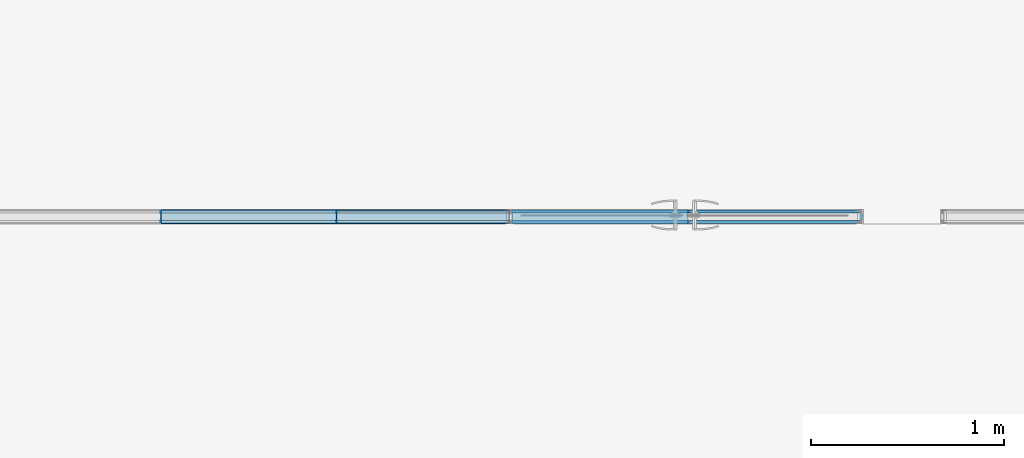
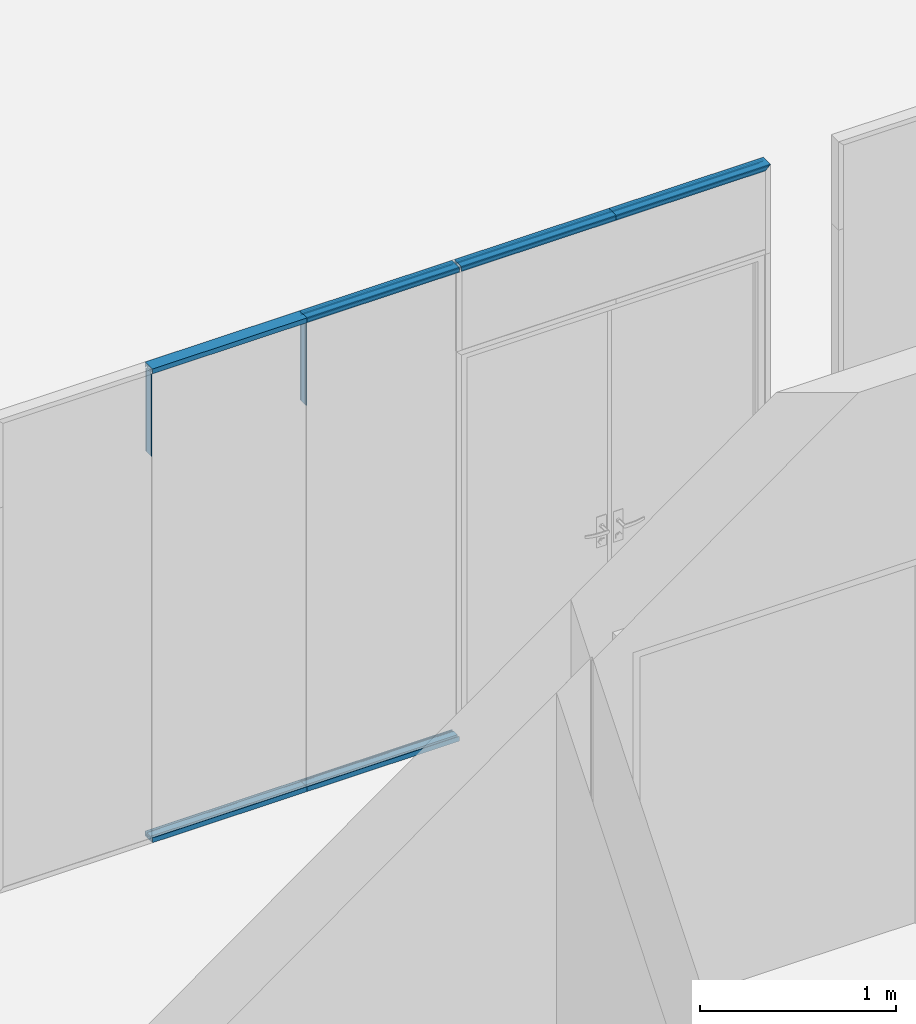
# One storey, part 26 of 62: 15 building element parts, 9 elements without a shape of their own.
"""IFC2X3 building model written with IfcOpenShell, lengths in millimetres."""

from ifc_helpers import new_model, entity, si_unit, converted_unit, derived_unit, money_unit, direction, frame, origin_with_axes, place, context, subcontext, project, spatial, faceted_brep, source, transform, mapped, material, type_object, element, aggregate, save


model = new_model("IFC2X3")

# Units and contexts
model_context = context("Model", 3, precision=0.01, world=origin_with_axes(), true_north=direction((0.0, 1.0)))
body_context = subcontext(model_context, "Body", "Model", "MODEL_VIEW")
ifc_project = project(units=[si_unit("LENGTHUNIT", "METRE", prefix="MILLI"), si_unit("AREAUNIT", "SQUARE_METRE"), si_unit("VOLUMEUNIT", "CUBIC_METRE"), converted_unit("PLANEANGLEUNIT", "DEGREE", entity("IfcPlaneAngleMeasure", 0.0174532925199), si_unit("PLANEANGLEUNIT", "RADIAN"), dimensions=[0, 0, 0, 0, 0, 0, 0]), si_unit("SOLIDANGLEUNIT", "STERADIAN"), money_unit("EUR"), converted_unit("TIMEUNIT", "Year", entity("IfcTimeMeasure", 31556926.0), si_unit("TIMEUNIT", "SECOND"), dimensions=[0, 0, 1, 0, 0, 0, 0]), si_unit("MASSUNIT", "GRAM", prefix="KILO"), si_unit("THERMODYNAMICTEMPERATUREUNIT", "DEGREE_CELSIUS"), si_unit("LUMINOUSINTENSITYUNIT", "LUMEN"), si_unit("ENERGYUNIT", "JOULE", prefix="MEGA"), derived_unit("THERMALCONDUCTANCEUNIT", [(si_unit("POWERUNIT", "WATT"), 1), (si_unit("LENGTHUNIT", "METRE"), -1), (si_unit("THERMODYNAMICTEMPERATUREUNIT", "KELVIN"), -1)]), derived_unit("SPECIFICHEATCAPACITYUNIT", [(si_unit("ENERGYUNIT", "JOULE"), 1), (si_unit("MASSUNIT", "GRAM", prefix="KILO"), -1), (si_unit("THERMODYNAMICTEMPERATUREUNIT", "KELVIN"), -1)]), derived_unit("MASSDENSITYUNIT", [(si_unit("MASSUNIT", "GRAM", prefix="KILO"), 1), (si_unit("VOLUMEUNIT", "CUBIC_METRE"), -1)])], contexts=[model_context])

# Site, building, storey
site_placement = place(None, origin_with_axes())
site = spatial("IfcSite", under=ifc_project, at=site_placement, Name="Puškini 31, Narva", CompositionType="ELEMENT")
building_placement = place(site_placement, origin_with_axes())
building = spatial("IfcBuilding", under=site, at=building_placement, Name="Narva Riigigümnaasium", CompositionType="ELEMENT")
storey_placement = place(building_placement, frame((0.0, 0.0, 660.0), z_axis=(0.0, 0.0, 1.0), x_axis=(1.0, 0.0, 0.0)))
storey = spatial("IfcBuildingStorey", under=building, at=storey_placement, Name="2.korrus +0.66", CompositionType="ELEMENT", Elevation=660.0)

# Curtain wall, members, building element parts
curtain_wall_type = type_object("IfcCurtainWallType", Name="Curtain Wall Type", PredefinedType="NOTDEFINED")
curtain_wall_placement = place(storey_placement, frame((41241.6, 223837.000007, -1.99739158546e-06), z_axis=(0.0, 0.0, 1.0), x_axis=(1.0, 0.0, 0.0)))
curtain_wall = element("IfcCurtainWall", 1, at=curtain_wall_placement, inside=storey, type_object=curtain_wall_type, Name="G-SKLF-53")
member_type_1 = type_object("IfcMemberType", Name="Boundary Frame 30 x 37", PredefinedType="MULLION")
member_1_placement = place(curtain_wall_placement, frame((-1820.8, 0.0, 2949.99999445), z_axis=(-1.0, 0.0, 0.0), x_axis=(0.0, 0.0, -1.0)))
member_1 = element("IfcMember", 2, at=member_1_placement, type_object=member_type_1, Name="G-SKLF-91-raam", ObjectType="MULLION")
ifc_material_1 = material(Name="Klaasvill")
shared_shape_1 = source(origin_with_axes(), body_context, "Body", "Brep", [
    faceted_brep([(-7.49999990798, 20.000000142, 0.0), (-7.49999990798, 20.000000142, 910.4), (-13.8499999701, 20.000000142, 910.4), (-13.8499999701, 20.000000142, 0.0), (-7.49999990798, 34.0161444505, 0.0), (-7.49999990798, 34.0161444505, 910.4), (-13.8499999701, 34.0161444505, 910.4), (-13.8499999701, 34.0161444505, 0.0)], [[[0, 1, 2, 3]], [[4, 5, 1, 0]], [[1, 5, 6, 2]], [[3, 2, 6, 7]], [[0, 3, 7, 4]], [[7, 6, 5, 4]]]),
    faceted_brep([(-24.987414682, 34.0161444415, 0.0), (-24.987414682, 34.0161444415, 910.4), (-25.004489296, 32.0307503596, 910.4), (-25.004489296, 32.0307503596, 0.0), (-28.5126239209, 34.0161444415, 0.0), (-28.5126239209, 34.0161444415, 910.4), (-28.7655837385, 33.0385325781, 910.4), (-28.4955493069, 32.0307503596, 910.4), (-27.75780152, 31.2930025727, 910.4), (-26.7500193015, 31.0229681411, 910.4), (-25.742237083, 31.2930025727, 910.4), (-25.742237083, 31.2930025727, 0.0), (-26.7500193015, 31.0229681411, 0.0), (-27.75780152, 31.2930025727, 0.0), (-28.4955493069, 32.0307503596, 0.0), (-28.7655837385, 33.0385325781, 0.0)], [[[0, 1, 2, 3]], [[4, 5, 1, 0]], [[1, 5, 6, 7, 8, 9, 10, 2]], [[3, 2, 10, 11]], [[0, 3, 11, 12, 13, 14, 15, 4]], [[15, 6, 5, 4]], [[14, 7, 6, 15]], [[13, 8, 7, 14]], [[12, 9, 8, 13]], [[11, 10, 9, 12]]]),
    faceted_brep([(-7.49999990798, -19.9999997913, 0.0), (-7.49999990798, -19.9999997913, 910.4), (-7.49999990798, -34.0161445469, 910.4), (-7.49999990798, -34.0161445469, 0.0), (-13.8499999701, -19.9999997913, 0.0), (-13.8499999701, -19.9999997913, 910.4), (-13.8499999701, -34.0161445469, 910.4), (-13.8499999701, -34.0161445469, 0.0)], [[[0, 1, 2, 3]], [[4, 5, 1, 0]], [[1, 5, 6, 2]], [[3, 2, 6, 7]], [[0, 3, 7, 4]], [[7, 6, 5, 4]]]),
    faceted_brep([(-25.004489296, -32.0307503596, 0.0), (-25.004489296, -32.0307503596, 910.4), (-24.987414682, -34.0161444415, 910.4), (-24.987414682, -34.0161444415, 0.0), (-25.742237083, -31.2930025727, 0.0), (-25.742237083, -31.2930025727, 910.4), (-26.7500193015, -31.0229681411, 910.4), (-27.75780152, -31.2930025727, 910.4), (-28.4955493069, -32.0307503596, 910.4), (-28.7655837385, -33.0385325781, 910.4), (-28.5126239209, -34.0161444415, 910.4), (-28.5126239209, -34.0161444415, 0.0), (-28.7655837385, -33.0385325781, 0.0), (-28.4955493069, -32.0307503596, 0.0), (-27.75780152, -31.2930025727, 0.0), (-26.7500193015, -31.0229681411, 0.0)], [[[0, 1, 2, 3]], [[4, 5, 1, 0]], [[1, 5, 6, 7, 8, 9, 10, 2]], [[3, 2, 10, 11]], [[0, 3, 11, 12, 13, 14, 15, 4]], [[15, 6, 5, 4]], [[14, 7, 6, 15]], [[13, 8, 7, 14]], [[12, 9, 8, 13]], [[11, 10, 9, 12]]]),
])
building_element_part_1_placement = place(member_1_placement, origin_with_axes())
building_element_part_1 = element("IfcBuildingElementPart", 3, at=building_element_part_1_placement, material=ifc_material_1, Name="Klaasvill", context=body_context, shape_type="MappedRepresentation", body=[
    mapped(shared_shape_1, transform((0.0, 0.0, 0.0), x_axis=(-1.0, 0.0, 0.0), y_axis=(0.0, -1.0, 0.0), z_axis=(0.0, 0.0, 1.0))),
])
member_2_placement = place(curtain_wall_placement, frame((0.0, 0.0, 2949.99999445), z_axis=(-1.0, 0.0, 0.0), x_axis=(0.0, 0.0, -1.0)))
member_2 = element("IfcMember", 4, at=member_2_placement, type_object=member_type_1, Name="G-SKLF-89-raam", ObjectType="MULLION")
building_element_part_2_placement = place(member_2_placement, origin_with_axes())
building_element_part_2 = element("IfcBuildingElementPart", 5, at=building_element_part_2_placement, material=ifc_material_1, Name="Klaasvill", context=body_context, shape_type="MappedRepresentation", body=[
    mapped(shared_shape_1, transform((0.0, 0.0, 0.0), x_axis=(-1.0, 0.0, 0.0), y_axis=(0.0, -1.0, 0.0), z_axis=(0.0, 0.0, 1.0))),
])
member_3_placement = place(curtain_wall_placement, frame((-2731.2, 0.0, 0.0), z_axis=(1.0, 0.0, 0.0), x_axis=(0.0, 0.0, 1.0)))
member_3 = element("IfcMember", 6, at=member_3_placement, type_object=member_type_1, Name="G-SKLF-82-raam", ObjectType="MULLION")
ifc_material_2 = material(Name="Teras RAL7012")
shared_shape_2 = source(origin_with_axes(), body_context, "Body", "Brep", [
    faceted_brep([(0.0, -17.0000000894, 0.0), (0.0, -17.0000000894, 910.4), (-29.5999996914, -17.0000000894, 910.4), (-29.5999996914, -17.0000000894, 0.0), (0.0, 17.0000000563, 0.0), (0.0, 17.0000000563, 910.4), (-29.5999996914, 17.0000000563, 910.4), (-1.9999999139, 15.0000001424, 910.4), (-1.9999999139, -15.0000001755, 910.4), (-18.7999996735, -15.0000001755, 910.4), (-18.7999996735, 15.0000001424, 910.4), (-29.5999996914, 17.0000000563, 0.0), (-1.9999999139, 15.0000001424, 0.0), (-18.7999996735, 15.0000001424, 0.0), (-18.7999996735, -15.0000001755, 0.0), (-1.9999999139, -15.0000001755, 0.0)], [[[0, 1, 2, 3]], [[4, 5, 1, 0]], [[1, 5, 6, 2], [7, 8, 9, 10]], [[3, 2, 6, 11]], [[0, 3, 11, 4], [12, 13, 14, 15]], [[11, 6, 5, 4]], [[15, 8, 7, 12]], [[14, 9, 8, 15]], [[13, 10, 9, 14]], [[12, 7, 10, 13]]]),
    faceted_brep([(0.0, 17.0, 0.0), (0.0, 17.0, 910.4), (-29.5999996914, 17.0000000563, 910.4), (-29.5999996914, 17.0000000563, 0.0), (0.0, 37.0, 0.0), (0.0, 37.0, 910.4), (-30.0000193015, 37.0, 910.4), (-30.0000193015, 34.0161444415, 910.4), (-28.5126239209, 34.0161444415, 910.4), (-24.987414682, 34.0161444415, 910.4), (-13.8499999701, 34.0161444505, 910.4), (-7.49999999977, 34.0161444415, 910.4), (-7.49999999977, 20.0, 910.4), (-13.8499999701, 20.000000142, 910.4), (-30.0000193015, 20.0, 910.4), (-30.0000193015, 17.0, 910.4), (-30.0000193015, 17.0, 0.0), (-30.0000193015, 20.0, 0.0), (-13.8499999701, 20.000000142, 0.0), (-7.49999999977, 20.0, 0.0), (-7.49999999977, 34.0161444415, 0.0), (-13.8499999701, 34.0161444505, 0.0), (-24.987414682, 34.0161444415, 0.0), (-28.5126239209, 34.0161444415, 0.0), (-30.0000193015, 34.0161444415, 0.0), (-30.0000193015, 37.0, 0.0)], [[[0, 1, 2, 3]], [[4, 5, 1, 0]], [[1, 5, 6, 7, 8, 9, 10, 11, 12, 13, 14, 15, 2]], [[3, 2, 15, 16]], [[0, 3, 16, 17, 18, 19, 20, 21, 22, 23, 24, 25, 4]], [[25, 6, 5, 4]], [[24, 7, 6, 25]], [[23, 8, 7, 24]], [[22, 9, 8, 23]], [[21, 10, 9, 22]], [[20, 11, 10, 21]], [[19, 12, 11, 20]], [[18, 13, 12, 19]], [[17, 14, 13, 18]], [[16, 15, 14, 17]]]),
    faceted_brep([(0.0, -17.0, 0.0), (0.0, -17.0, 910.4), (0.0, -37.0, 910.4), (0.0, -37.0, 0.0), (-29.5999996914, -17.0000000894, 0.0), (-29.5999996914, -17.0000000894, 910.4), (-30.0000193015, -17.0, 910.4), (-30.0000193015, -20.0, 910.4), (-13.8499999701, -19.9999997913, 910.4), (-7.49999999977, -20.0, 910.4), (-7.49999999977, -34.0161444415, 910.4), (-13.8499999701, -34.0161445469, 910.4), (-24.987414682, -34.0161444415, 910.4), (-28.5126239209, -34.0161444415, 910.4), (-30.0000193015, -34.0161444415, 910.4), (-30.0000193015, -37.0, 910.4), (-30.0000193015, -37.0, 0.0), (-30.0000193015, -34.0161444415, 0.0), (-28.5126239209, -34.0161444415, 0.0), (-24.987414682, -34.0161444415, 0.0), (-13.8499999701, -34.0161445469, 0.0), (-7.49999999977, -34.0161444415, 0.0), (-7.49999999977, -20.0, 0.0), (-13.8499999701, -19.9999997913, 0.0), (-30.0000193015, -20.0, 0.0), (-30.0000193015, -17.0, 0.0)], [[[0, 1, 2, 3]], [[4, 5, 1, 0]], [[1, 5, 6, 7, 8, 9, 10, 11, 12, 13, 14, 15, 2]], [[3, 2, 15, 16]], [[0, 3, 16, 17, 18, 19, 20, 21, 22, 23, 24, 25, 4]], [[25, 6, 5, 4]], [[24, 7, 6, 25]], [[23, 8, 7, 24]], [[22, 9, 8, 23]], [[21, 10, 9, 22]], [[20, 11, 10, 21]], [[19, 12, 11, 20]], [[18, 13, 12, 19]], [[17, 14, 13, 18]], [[16, 15, 14, 17]]]),
])
building_element_part_3_placement = place(member_3_placement, origin_with_axes())
building_element_part_3 = element("IfcBuildingElementPart", 7, at=building_element_part_3_placement, material=ifc_material_2, Name="Teras RAL7012", context=body_context, shape_type="MappedRepresentation", body=[
    mapped(shared_shape_2, transform((0.0, 0.0, 0.0), x_axis=(-1.0, 0.0, 0.0), y_axis=(0.0, -1.0, 0.0), z_axis=(0.0, 0.0, 1.0))),
])
aggregate(member_3, [building_element_part_3])
building_element_part_4_placement = place(member_1_placement, origin_with_axes())
building_element_part_4 = element("IfcBuildingElementPart", 8, at=building_element_part_4_placement, material=ifc_material_2, Name="Teras RAL7012", context=body_context, shape_type="MappedRepresentation", body=[
    mapped(shared_shape_2, transform((0.0, 0.0, 0.0), x_axis=(-1.0, 0.0, 0.0), y_axis=(0.0, -1.0, 0.0), z_axis=(0.0, 0.0, 1.0))),
])
aggregate(member_1, [building_element_part_1, building_element_part_4])
building_element_part_5_placement = place(member_2_placement, origin_with_axes())
building_element_part_5 = element("IfcBuildingElementPart", 9, at=building_element_part_5_placement, material=ifc_material_2, Name="Teras RAL7012", context=body_context, shape_type="MappedRepresentation", body=[
    mapped(shared_shape_2, transform((0.0, 0.0, 0.0), x_axis=(-1.0, 0.0, 0.0), y_axis=(0.0, -1.0, 0.0), z_axis=(0.0, 0.0, 1.0))),
])
aggregate(member_2, [building_element_part_2, building_element_part_5])
member_4_placement = place(curtain_wall_placement, frame((910.4, 0.0, 2949.99999445), z_axis=(-1.0, 0.0, 0.0), x_axis=(0.0, 0.0, -1.0)))
member_4 = element("IfcMember", 10, at=member_4_placement, type_object=member_type_1, Name="G-SKLF-88-raam", ObjectType="MULLION")
shared_shape_3 = source(origin_with_axes(), body_context, "Body", "Brep", [
    faceted_brep([(-13.8499999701, 20.000000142, 13.8499999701), (-7.49999990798, 20.000000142, 7.49999990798), (-7.49999990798, 20.000000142, 910.4), (-13.8499999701, 20.000000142, 910.4), (-13.8499999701, 34.0161444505, 13.8499999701), (-7.49999990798, 34.0161444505, 7.49999990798), (-7.49999990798, 34.0161444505, 910.4), (-13.8499999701, 34.0161444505, 910.4)], [[[0, 1, 2, 3]], [[1, 0, 4, 5]], [[1, 5, 6, 2]], [[2, 6, 7, 3]], [[4, 0, 3, 7]], [[5, 4, 7, 6]]]),
    faceted_brep([(-25.004489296, 32.0307503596, 25.004489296), (-24.987414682, 34.0161444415, 24.987414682), (-24.987414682, 34.0161444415, 910.4), (-25.004489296, 32.0307503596, 910.4), (-25.742237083, 31.2930025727, 25.742237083), (-26.7500193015, 31.0229681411, 26.7500193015), (-27.75780152, 31.2930025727, 27.75780152), (-28.4955493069, 32.0307503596, 28.4955493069), (-28.7655837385, 33.0385325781, 28.7655837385), (-28.5126239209, 34.0161444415, 28.5126239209), (-28.5126239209, 34.0161444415, 910.4), (-28.7655837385, 33.0385325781, 910.4), (-28.4955493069, 32.0307503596, 910.4), (-27.75780152, 31.2930025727, 910.4), (-26.7500193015, 31.0229681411, 910.4), (-25.742237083, 31.2930025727, 910.4)], [[[0, 1, 2, 3]], [[1, 0, 4, 5, 6, 7, 8, 9]], [[1, 9, 10, 2]], [[2, 10, 11, 12, 13, 14, 15, 3]], [[4, 0, 3, 15]], [[5, 4, 15, 14]], [[6, 5, 14, 13]], [[7, 6, 13, 12]], [[8, 7, 12, 11]], [[9, 8, 11, 10]]]),
    faceted_brep([(-7.49999990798, -34.0161445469, 7.49999990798), (-7.49999990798, -19.9999997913, 7.49999990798), (-7.49999990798, -19.9999997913, 910.4), (-7.49999990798, -34.0161445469, 910.4), (-13.8499999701, -34.0161445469, 13.8499999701), (-13.8499999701, -19.9999997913, 13.8499999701), (-13.8499999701, -19.9999997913, 910.4), (-13.8499999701, -34.0161445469, 910.4)], [[[0, 1, 2, 3]], [[1, 0, 4, 5]], [[1, 5, 6, 2]], [[2, 6, 7, 3]], [[4, 0, 3, 7]], [[5, 4, 7, 6]]]),
    faceted_brep([(-24.987414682, -34.0161444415, 24.987414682), (-25.004489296, -32.0307503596, 25.004489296), (-25.004489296, -32.0307503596, 910.4), (-24.987414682, -34.0161444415, 910.4), (-28.5126239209, -34.0161444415, 28.5126239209), (-28.7655837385, -33.0385325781, 28.7655837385), (-28.4955493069, -32.0307503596, 28.4955493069), (-27.75780152, -31.2930025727, 27.75780152), (-26.7500193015, -31.0229681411, 26.7500193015), (-25.742237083, -31.2930025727, 25.742237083), (-25.742237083, -31.2930025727, 910.4), (-26.7500193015, -31.0229681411, 910.4), (-27.75780152, -31.2930025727, 910.4), (-28.4955493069, -32.0307503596, 910.4), (-28.7655837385, -33.0385325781, 910.4), (-28.5126239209, -34.0161444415, 910.4)], [[[0, 1, 2, 3]], [[1, 0, 4, 5, 6, 7, 8, 9]], [[1, 9, 10, 2]], [[2, 10, 11, 12, 13, 14, 15, 3]], [[4, 0, 3, 15]], [[5, 4, 15, 14]], [[6, 5, 14, 13]], [[7, 6, 13, 12]], [[8, 7, 12, 11]], [[9, 8, 11, 10]]]),
])
building_element_part_6_placement = place(member_4_placement, origin_with_axes())
building_element_part_6 = element("IfcBuildingElementPart", 11, at=building_element_part_6_placement, material=ifc_material_1, Name="Klaasvill", context=body_context, shape_type="MappedRepresentation", body=[
    mapped(shared_shape_3, transform((0.0, 0.0, 0.0), x_axis=(-1.0, 0.0, 0.0), y_axis=(0.0, -1.0, 0.0), z_axis=(0.0, 0.0, 1.0))),
])
shared_shape_4 = source(origin_with_axes(), body_context, "Body", "Brep", [
    faceted_brep([(-29.5999996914, -17.0000000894, 29.5999996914), (0.0, -17.0000000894, 0.0), (0.0, -17.0000000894, 910.4), (-29.5999996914, -17.0000000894, 910.4), (-29.5999996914, 17.0000000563, 29.5999996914), (0.0, 17.0000000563, 0.0), (-1.9999999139, 15.0000001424, 1.9999999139), (-18.7999996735, 15.0000001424, 18.7999996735), (-18.7999996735, -15.0000001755, 18.7999996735), (-1.9999999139, -15.0000001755, 1.9999999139), (0.0, 17.0000000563, 910.4), (-29.5999996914, 17.0000000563, 910.4), (-1.9999999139, 15.0000001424, 910.4), (-1.9999999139, -15.0000001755, 910.4), (-18.7999996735, -15.0000001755, 910.4), (-18.7999996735, 15.0000001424, 910.4)], [[[0, 1, 2, 3]], [[1, 0, 4, 5], [6, 7, 8, 9]], [[1, 5, 10, 2]], [[2, 10, 11, 3], [12, 13, 14, 15]], [[4, 0, 3, 11]], [[5, 4, 11, 10]], [[7, 6, 12, 15]], [[8, 7, 15, 14]], [[9, 8, 14, 13]], [[6, 9, 13, 12]]]),
    faceted_brep([(-29.5999996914, 17.0000000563, 29.5999996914), (0.0, 17.0, 0.0), (0.0, 17.0, 910.4), (-29.5999996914, 17.0000000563, 910.4), (-30.0000193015, 17.0, 30.0000193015), (-30.0000193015, 20.0, 30.0000193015), (-13.8499999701, 20.000000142, 13.8499999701), (-7.49999999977, 20.0, 7.49999999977), (-7.49999999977, 34.0161444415, 7.49999999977), (-13.8499999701, 34.0161444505, 13.8499999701), (-24.987414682, 34.0161444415, 24.987414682), (-28.5126239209, 34.0161444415, 28.5126239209), (-30.0000193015, 34.0161444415, 30.0000193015), (-30.0000193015, 37.0, 30.0000193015), (0.0, 37.0, 0.0), (0.0, 37.0, 910.4), (-30.0000193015, 37.0, 910.4), (-30.0000193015, 34.0161444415, 910.4), (-28.5126239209, 34.0161444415, 910.4), (-24.987414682, 34.0161444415, 910.4), (-13.8499999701, 34.0161444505, 910.4), (-7.49999999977, 34.0161444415, 910.4), (-7.49999999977, 20.0, 910.4), (-13.8499999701, 20.000000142, 910.4), (-30.0000193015, 20.0, 910.4), (-30.0000193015, 17.0, 910.4)], [[[0, 1, 2, 3]], [[1, 0, 4, 5, 6, 7, 8, 9, 10, 11, 12, 13, 14]], [[1, 14, 15, 2]], [[2, 15, 16, 17, 18, 19, 20, 21, 22, 23, 24, 25, 3]], [[4, 0, 3, 25]], [[5, 4, 25, 24]], [[6, 5, 24, 23]], [[7, 6, 23, 22]], [[8, 7, 22, 21]], [[9, 8, 21, 20]], [[10, 9, 20, 19]], [[11, 10, 19, 18]], [[12, 11, 18, 17]], [[13, 12, 17, 16]], [[14, 13, 16, 15]]]),
    faceted_brep([(0.0, -37.0, 0.0), (0.0, -17.0, 0.0), (0.0, -17.0, 910.4), (0.0, -37.0, 910.4), (-30.0000193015, -37.0, 30.0000193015), (-30.0000193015, -34.0161444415, 30.0000193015), (-28.5126239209, -34.0161444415, 28.5126239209), (-24.987414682, -34.0161444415, 24.987414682), (-13.8499999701, -34.0161445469, 13.8499999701), (-7.49999999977, -34.0161444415, 7.49999999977), (-7.49999999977, -20.0, 7.49999999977), (-13.8499999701, -19.9999997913, 13.8499999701), (-30.0000193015, -20.0, 30.0000193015), (-30.0000193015, -17.0, 30.0000193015), (-29.5999996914, -17.0000000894, 29.5999996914), (-29.5999996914, -17.0000000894, 910.4), (-30.0000193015, -17.0, 910.4), (-30.0000193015, -20.0, 910.4), (-13.8499999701, -19.9999997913, 910.4), (-7.49999999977, -20.0, 910.4), (-7.49999999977, -34.0161444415, 910.4), (-13.8499999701, -34.0161445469, 910.4), (-24.987414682, -34.0161444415, 910.4), (-28.5126239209, -34.0161444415, 910.4), (-30.0000193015, -34.0161444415, 910.4), (-30.0000193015, -37.0, 910.4)], [[[0, 1, 2, 3]], [[1, 0, 4, 5, 6, 7, 8, 9, 10, 11, 12, 13, 14]], [[1, 14, 15, 2]], [[2, 15, 16, 17, 18, 19, 20, 21, 22, 23, 24, 25, 3]], [[4, 0, 3, 25]], [[5, 4, 25, 24]], [[6, 5, 24, 23]], [[7, 6, 23, 22]], [[8, 7, 22, 21]], [[9, 8, 21, 20]], [[10, 9, 20, 19]], [[11, 10, 19, 18]], [[12, 11, 18, 17]], [[13, 12, 17, 16]], [[14, 13, 16, 15]]]),
])
building_element_part_7_placement = place(member_4_placement, origin_with_axes())
building_element_part_7 = element("IfcBuildingElementPart", 12, at=building_element_part_7_placement, material=ifc_material_2, Name="Teras RAL7012", context=body_context, shape_type="MappedRepresentation", body=[
    mapped(shared_shape_4, transform((0.0, 0.0, 0.0), x_axis=(-1.0, 0.0, 0.0), y_axis=(0.0, -1.0, 0.0), z_axis=(0.0, 0.0, 1.0))),
])
aggregate(member_4, [building_element_part_6, building_element_part_7])
member_5_placement = place(curtain_wall_placement, frame((-1820.8, 0.0, 0.0), z_axis=(1.0, 0.0, 0.0), x_axis=(0.0, 0.0, 1.0)))
member_5 = element("IfcMember", 13, at=member_5_placement, type_object=member_type_1, Name="G-SKLF-96-raam", ObjectType="MULLION")
shared_shape_5 = source(origin_with_axes(), body_context, "Body", "Brep", [
    faceted_brep([(-7.49999990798, 20.000000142, 0.0), (-7.49999990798, 20.000000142, 897.399994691), (-13.8499999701, 20.000000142, 897.399994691), (-13.8499999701, 20.000000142, 0.0), (-7.49999990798, 34.0161444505, 0.0), (-7.49999990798, 34.0161444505, 897.399994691), (-13.8499999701, 34.0161444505, 897.399994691), (-13.8499999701, 34.0161444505, 0.0)], [[[0, 1, 2, 3]], [[4, 5, 1, 0]], [[1, 5, 6, 2]], [[3, 2, 6, 7]], [[0, 3, 7, 4]], [[7, 6, 5, 4]]]),
    faceted_brep([(-24.987414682, 34.0161444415, 0.0), (-24.987414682, 34.0161444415, 897.399994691), (-25.004489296, 32.0307503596, 897.399994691), (-25.004489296, 32.0307503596, 0.0), (-28.5126239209, 34.0161444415, 0.0), (-28.5126239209, 34.0161444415, 897.399994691), (-28.7655837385, 33.0385325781, 897.399994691), (-28.4955493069, 32.0307503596, 897.399994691), (-27.75780152, 31.2930025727, 897.399994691), (-26.7500193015, 31.0229681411, 897.399994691), (-25.742237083, 31.2930025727, 897.399994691), (-25.742237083, 31.2930025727, 0.0), (-26.7500193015, 31.0229681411, 0.0), (-27.75780152, 31.2930025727, 0.0), (-28.4955493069, 32.0307503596, 0.0), (-28.7655837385, 33.0385325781, 0.0)], [[[0, 1, 2, 3]], [[4, 5, 1, 0]], [[1, 5, 6, 7, 8, 9, 10, 2]], [[3, 2, 10, 11]], [[0, 3, 11, 12, 13, 14, 15, 4]], [[15, 6, 5, 4]], [[14, 7, 6, 15]], [[13, 8, 7, 14]], [[12, 9, 8, 13]], [[11, 10, 9, 12]]]),
    faceted_brep([(-7.49999990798, -19.9999997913, 0.0), (-7.49999990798, -19.9999997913, 897.399994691), (-7.49999990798, -34.0161445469, 897.399994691), (-7.49999990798, -34.0161445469, 0.0), (-13.8499999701, -19.9999997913, 0.0), (-13.8499999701, -19.9999997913, 897.399994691), (-13.8499999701, -34.0161445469, 897.399994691), (-13.8499999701, -34.0161445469, 0.0)], [[[0, 1, 2, 3]], [[4, 5, 1, 0]], [[1, 5, 6, 2]], [[3, 2, 6, 7]], [[0, 3, 7, 4]], [[7, 6, 5, 4]]]),
    faceted_brep([(-25.004489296, -32.0307503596, 0.0), (-25.004489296, -32.0307503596, 897.399994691), (-24.987414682, -34.0161444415, 897.399994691), (-24.987414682, -34.0161444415, 0.0), (-25.742237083, -31.2930025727, 0.0), (-25.742237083, -31.2930025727, 897.399994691), (-26.7500193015, -31.0229681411, 897.399994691), (-27.75780152, -31.2930025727, 897.399994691), (-28.4955493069, -32.0307503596, 897.399994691), (-28.7655837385, -33.0385325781, 897.399994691), (-28.5126239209, -34.0161444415, 897.399994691), (-28.5126239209, -34.0161444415, 0.0), (-28.7655837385, -33.0385325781, 0.0), (-28.4955493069, -32.0307503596, 0.0), (-27.75780152, -31.2930025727, 0.0), (-26.7500193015, -31.0229681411, 0.0)], [[[0, 1, 2, 3]], [[4, 5, 1, 0]], [[1, 5, 6, 7, 8, 9, 10, 2]], [[3, 2, 10, 11]], [[0, 3, 11, 12, 13, 14, 15, 4]], [[15, 6, 5, 4]], [[14, 7, 6, 15]], [[13, 8, 7, 14]], [[12, 9, 8, 13]], [[11, 10, 9, 12]]]),
])
building_element_part_8_placement = place(member_5_placement, origin_with_axes())
building_element_part_8 = element("IfcBuildingElementPart", 14, at=building_element_part_8_placement, material=ifc_material_1, Name="Klaasvill", context=body_context, shape_type="MappedRepresentation", body=[
    mapped(shared_shape_5, transform((0.0, 0.0, 0.0), x_axis=(-1.0, 0.0, 0.0), y_axis=(0.0, -1.0, 0.0), z_axis=(0.0, 0.0, 1.0))),
])
member_6_placement = place(curtain_wall_placement, frame((-923.400005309, 0.0, 2949.99999445), z_axis=(-1.0, 0.0, 0.0), x_axis=(0.0, 0.0, -1.0)))
member_6 = element("IfcMember", 15, at=member_6_placement, type_object=member_type_1, Name="G-SKLF-90-raam", ObjectType="MULLION")
building_element_part_9_placement = place(member_6_placement, origin_with_axes())
building_element_part_9 = element("IfcBuildingElementPart", 16, at=building_element_part_9_placement, material=ifc_material_1, Name="Klaasvill", context=body_context, shape_type="MappedRepresentation", body=[
    mapped(shared_shape_5, transform((0.0, 0.0, 0.0), x_axis=(-1.0, 0.0, 0.0), y_axis=(0.0, -1.0, 0.0), z_axis=(0.0, 0.0, 1.0))),
])
shared_shape_6 = source(origin_with_axes(), body_context, "Body", "Brep", [
    faceted_brep([(0.0, -17.0000000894, 0.0), (0.0, -17.0000000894, 897.399994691), (-29.5999996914, -17.0000000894, 897.399994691), (-29.5999996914, -17.0000000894, 0.0), (0.0, 17.0000000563, 0.0), (0.0, 17.0000000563, 897.399994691), (-29.5999996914, 17.0000000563, 897.399994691), (-1.9999999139, 15.0000001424, 897.399994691), (-1.9999999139, -15.0000001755, 897.399994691), (-18.7999996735, -15.0000001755, 897.399994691), (-18.7999996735, 15.0000001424, 897.399994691), (-29.5999996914, 17.0000000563, 0.0), (-1.9999999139, 15.0000001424, 0.0), (-18.7999996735, 15.0000001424, 0.0), (-18.7999996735, -15.0000001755, 0.0), (-1.9999999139, -15.0000001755, 0.0)], [[[0, 1, 2, 3]], [[4, 5, 1, 0]], [[1, 5, 6, 2], [7, 8, 9, 10]], [[3, 2, 6, 11]], [[0, 3, 11, 4], [12, 13, 14, 15]], [[11, 6, 5, 4]], [[15, 8, 7, 12]], [[14, 9, 8, 15]], [[13, 10, 9, 14]], [[12, 7, 10, 13]]]),
    faceted_brep([(0.0, 17.0, 0.0), (0.0, 17.0, 897.399994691), (-29.5999996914, 17.0000000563, 897.399994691), (-29.5999996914, 17.0000000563, 0.0), (0.0, 37.0, 0.0), (0.0, 37.0, 897.399994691), (-30.0000193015, 37.0, 897.399994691), (-30.0000193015, 34.0161444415, 897.399994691), (-28.5126239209, 34.0161444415, 897.399994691), (-24.987414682, 34.0161444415, 897.399994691), (-13.8499999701, 34.0161444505, 897.399994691), (-7.49999999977, 34.0161444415, 897.399994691), (-7.49999999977, 20.0, 897.399994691), (-13.8499999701, 20.000000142, 897.399994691), (-30.0000193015, 20.0, 897.399994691), (-30.0000193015, 17.0, 897.399994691), (-30.0000193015, 17.0, 0.0), (-30.0000193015, 20.0, 0.0), (-13.8499999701, 20.000000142, 0.0), (-7.49999999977, 20.0, 0.0), (-7.49999999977, 34.0161444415, 0.0), (-13.8499999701, 34.0161444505, 0.0), (-24.987414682, 34.0161444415, 0.0), (-28.5126239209, 34.0161444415, 0.0), (-30.0000193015, 34.0161444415, 0.0), (-30.0000193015, 37.0, 0.0)], [[[0, 1, 2, 3]], [[4, 5, 1, 0]], [[1, 5, 6, 7, 8, 9, 10, 11, 12, 13, 14, 15, 2]], [[3, 2, 15, 16]], [[0, 3, 16, 17, 18, 19, 20, 21, 22, 23, 24, 25, 4]], [[25, 6, 5, 4]], [[24, 7, 6, 25]], [[23, 8, 7, 24]], [[22, 9, 8, 23]], [[21, 10, 9, 22]], [[20, 11, 10, 21]], [[19, 12, 11, 20]], [[18, 13, 12, 19]], [[17, 14, 13, 18]], [[16, 15, 14, 17]]]),
    faceted_brep([(0.0, -17.0, 0.0), (0.0, -17.0, 897.399994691), (0.0, -37.0, 897.399994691), (0.0, -37.0, 0.0), (-29.5999996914, -17.0000000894, 0.0), (-29.5999996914, -17.0000000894, 897.399994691), (-30.0000193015, -17.0, 897.399994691), (-30.0000193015, -20.0, 897.399994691), (-13.8499999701, -19.9999997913, 897.399994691), (-7.49999999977, -20.0, 897.399994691), (-7.49999999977, -34.0161444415, 897.399994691), (-13.8499999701, -34.0161445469, 897.399994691), (-24.987414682, -34.0161444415, 897.399994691), (-28.5126239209, -34.0161444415, 897.399994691), (-30.0000193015, -34.0161444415, 897.399994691), (-30.0000193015, -37.0, 897.399994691), (-30.0000193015, -37.0, 0.0), (-30.0000193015, -34.0161444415, 0.0), (-28.5126239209, -34.0161444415, 0.0), (-24.987414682, -34.0161444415, 0.0), (-13.8499999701, -34.0161445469, 0.0), (-7.49999999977, -34.0161444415, 0.0), (-7.49999999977, -20.0, 0.0), (-13.8499999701, -19.9999997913, 0.0), (-30.0000193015, -20.0, 0.0), (-30.0000193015, -17.0, 0.0)], [[[0, 1, 2, 3]], [[4, 5, 1, 0]], [[1, 5, 6, 7, 8, 9, 10, 11, 12, 13, 14, 15, 2]], [[3, 2, 15, 16]], [[0, 3, 16, 17, 18, 19, 20, 21, 22, 23, 24, 25, 4]], [[25, 6, 5, 4]], [[24, 7, 6, 25]], [[23, 8, 7, 24]], [[22, 9, 8, 23]], [[21, 10, 9, 22]], [[20, 11, 10, 21]], [[19, 12, 11, 20]], [[18, 13, 12, 19]], [[17, 14, 13, 18]], [[16, 15, 14, 17]]]),
])
building_element_part_10_placement = place(member_5_placement, origin_with_axes())
building_element_part_10 = element("IfcBuildingElementPart", 17, at=building_element_part_10_placement, material=ifc_material_2, Name="Teras RAL7012", context=body_context, shape_type="MappedRepresentation", body=[
    mapped(shared_shape_6, transform((0.0, 0.0, 0.0), x_axis=(-1.0, 0.0, 0.0), y_axis=(0.0, -1.0, 0.0), z_axis=(0.0, 0.0, 1.0))),
])
aggregate(member_5, [building_element_part_8, building_element_part_10])
building_element_part_11_placement = place(member_6_placement, origin_with_axes())
building_element_part_11 = element("IfcBuildingElementPart", 18, at=building_element_part_11_placement, material=ifc_material_2, Name="Teras RAL7012", context=body_context, shape_type="MappedRepresentation", body=[
    mapped(shared_shape_6, transform((0.0, 0.0, 0.0), x_axis=(-1.0, 0.0, 0.0), y_axis=(0.0, -1.0, 0.0), z_axis=(0.0, 0.0, 1.0))),
])
aggregate(member_6, [building_element_part_9, building_element_part_11])
member_type_2 = type_object("IfcMemberType", Name="3 x -35", PredefinedType="MULLION")
member_7_placement = place(curtain_wall_placement, frame((-2731.2, 0.0, 2400.0), z_axis=(0.0, 0.0, 1.0), x_axis=(-1.0, 0.0, 0.0)))
member_7 = element("IfcMember", 19, at=member_7_placement, type_object=member_type_2, Name="G-SKLF-53-raam", ObjectType="MULLION")
ifc_material_3 = material(Name="Klaas")
shared_shape_7 = source(origin_with_axes(), body_context, "Body", "Brep", [
    faceted_brep([(1.4999861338, 20.0064497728, 0.0), (1.4999861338, 20.0064497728, 519.999975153), (-1.5000138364, 20.0064497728, 519.999975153), (-1.5000138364, 20.0064497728, 0.0), (1.4999861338, 29.0064496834, 0.0), (1.4999861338, 29.0064496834, 519.999975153), (-1.5000138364, 29.0064496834, 519.999975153), (-1.5000138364, 29.0064496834, 0.0)], [[[0, 1, 2, 3]], [[4, 5, 1, 0]], [[1, 5, 6, 2]], [[3, 2, 6, 7]], [[0, 3, 7, 4]], [[7, 6, 5, 4]]]),
    faceted_brep([(1.4999861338, -19.993550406, 0.0), (1.4999861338, -19.993550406, 519.999975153), (1.4999861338, -28.9935503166, 519.999975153), (1.4999861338, -28.9935503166, 0.0), (-1.5000138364, -19.993550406, 0.0), (-1.5000138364, -19.993550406, 519.999975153), (-1.5000138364, -28.9935503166, 519.999975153), (-1.5000138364, -28.9935503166, 0.0)], [[[0, 1, 2, 3]], [[4, 5, 1, 0]], [[1, 5, 6, 2]], [[3, 2, 6, 7]], [[0, 3, 7, 4]], [[7, 6, 5, 4]]]),
])
building_element_part_12_placement = place(member_7_placement, origin_with_axes())
building_element_part_12 = element("IfcBuildingElementPart", 20, at=building_element_part_12_placement, material=ifc_material_3, Name="Klaas", context=body_context, shape_type="MappedRepresentation", body=[
    mapped(shared_shape_7, transform((0.0, 0.0, 0.0), x_axis=(-1.0, 0.0, 0.0), y_axis=(0.0, -1.0, 0.0), z_axis=(0.0, 0.0, 1.0))),
])
member_8_placement = place(curtain_wall_placement, frame((-1820.8, 0.0, 2400.0), z_axis=(0.0, 0.0, 1.0), x_axis=(-1.0, 0.0, 0.0)))
member_8 = element("IfcMember", 21, at=member_8_placement, type_object=member_type_2, Name="G-SKLF-53-raam", ObjectType="MULLION")
aggregate(curtain_wall, [member_5, member_3, member_7, member_1, member_8, member_6, member_2, member_4])
building_element_part_13_placement = place(member_8_placement, origin_with_axes())
building_element_part_13 = element("IfcBuildingElementPart", 22, at=building_element_part_13_placement, material=ifc_material_3, Name="Klaas", context=body_context, shape_type="MappedRepresentation", body=[
    mapped(shared_shape_7, transform((0.0, 0.0, 0.0), x_axis=(-1.0, 0.0, 0.0), y_axis=(0.0, -1.0, 0.0), z_axis=(0.0, 0.0, 1.0))),
])
ifc_material_4 = material(Name="VKR-06_Õhkvahe")
shared_shape_8 = source(origin_with_axes(), body_context, "Body", "Brep", [
    faceted_brep([(1.4999861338, 20.0064496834, 0.0), (1.4999861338, 20.0064496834, 519.999975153), (1.4999861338, -19.9935503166, 519.999975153), (1.4999861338, -19.9935503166, 0.0), (-1.5000138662, 20.0064496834, 0.0), (-1.5000138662, 20.0064496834, 519.999975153), (-1.5000138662, -19.9935503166, 519.999975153), (-1.5000138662, -19.9935503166, 0.0)], [[[0, 1, 2, 3]], [[4, 5, 1, 0]], [[1, 5, 6, 2]], [[3, 2, 6, 7]], [[0, 3, 7, 4]], [[7, 6, 5, 4]]]),
])
building_element_part_14_placement = place(member_7_placement, origin_with_axes())
building_element_part_14 = element("IfcBuildingElementPart", 23, at=building_element_part_14_placement, material=ifc_material_4, Name="VKR-06_Õhkvahe", context=body_context, shape_type="MappedRepresentation", body=[
    mapped(shared_shape_8, transform((0.0, 0.0, 0.0), x_axis=(-1.0, 0.0, 0.0), y_axis=(0.0, -1.0, 0.0), z_axis=(0.0, 0.0, 1.0))),
])
aggregate(member_7, [building_element_part_12, building_element_part_14])
building_element_part_15_placement = place(member_8_placement, origin_with_axes())
building_element_part_15 = element("IfcBuildingElementPart", 24, at=building_element_part_15_placement, material=ifc_material_4, Name="VKR-06_Õhkvahe", context=body_context, shape_type="MappedRepresentation", body=[
    mapped(shared_shape_8, transform((0.0, 0.0, 0.0), x_axis=(-1.0, 0.0, 0.0), y_axis=(0.0, -1.0, 0.0), z_axis=(0.0, 0.0, 1.0))),
])
aggregate(member_8, [building_element_part_13, building_element_part_15])

save(model, "model.ifc")
